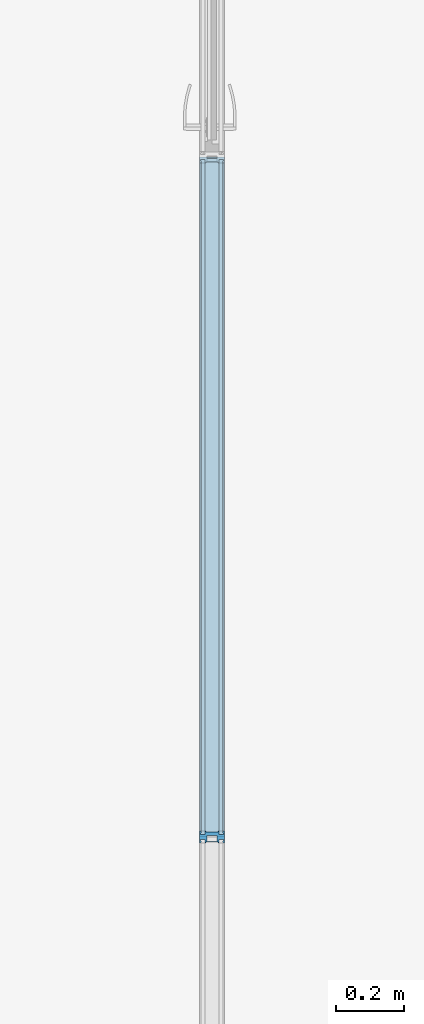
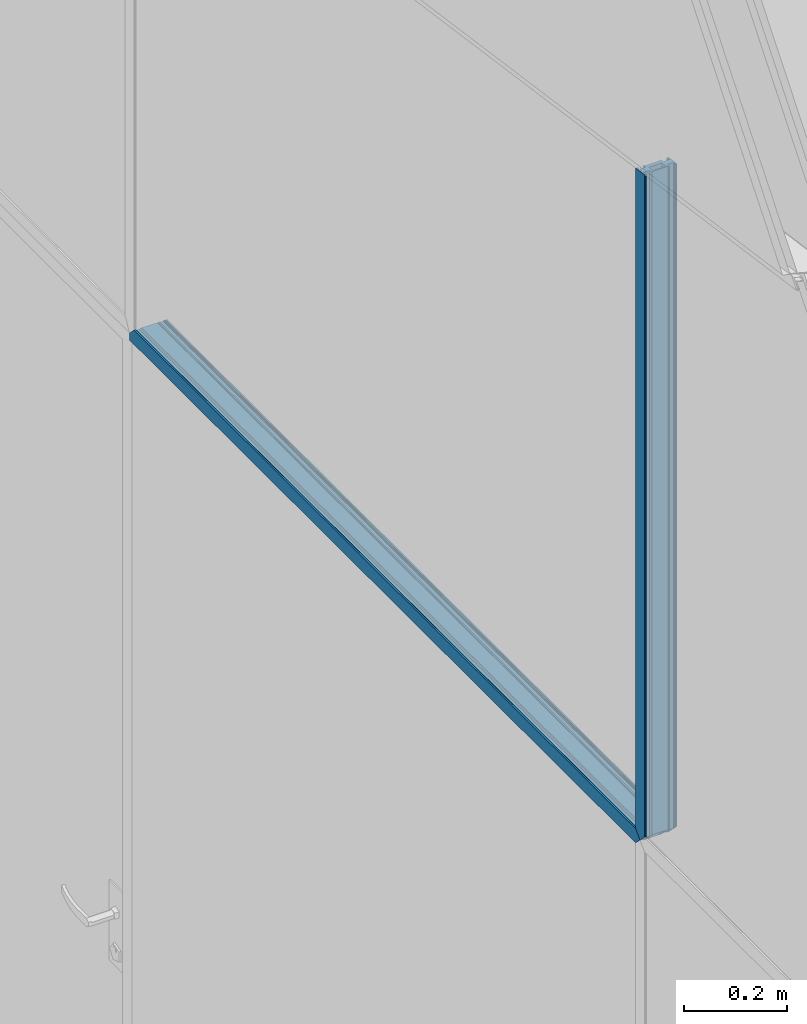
# One storey, part 76 of 246: 2 members, 1 element without a shape of its own.
"""IFC2X3 building model written with IfcOpenShell, lengths in millimetres."""

import ifcopenshell
import ifcopenshell.guid

model = None  # the IFC model being written
_history = None  # IfcOwnerHistory: only IFC2X3 demands one
_inside = {}  # id of a spatial element -> (the spatial element, [elements in it])
_under = {}  # id of a project, library or spatial element -> (it, [spatial elements below it])
_declared = {}  # id of a project -> (the project, [libraries it declares])
_typed = {}  # id of a type object -> (the type object, [elements of that type])
_made_of = {}  # id of a material, layer set ... -> (it, [elements and type objects made of it])


def new_model(schema):
    """Start an empty IFC model of exactly this schema.

    Asked for "IFC4X3", IfcOpenShell would pick the latest addendum, in which some entities
    have other attributes; the version numbers below select the first issue.
    IFC2X3 requires an IfcOwnerHistory on every rooted entity: one is made here for all.
    """
    global model, _history
    if schema == "IFC4X3":
        model = ifcopenshell.file(schema_version=(4, 3, 0, 0))
    else:
        model = ifcopenshell.file(schema=schema)
    _inside.clear()
    _under.clear()
    _declared.clear()
    _typed.clear()
    _made_of.clear()
    _history = None
    if model.schema == "IFC2X3":
        org = make("IfcOrganization", Name="unknown")
        user = make(
            "IfcPersonAndOrganization",
            ThePerson=make("IfcPerson", FamilyName="unknown"),
            TheOrganization=org,
        )
        app = make(
            "IfcApplication",
            ApplicationDeveloper=org,
            Version="unknown",
            ApplicationFullName="unknown",
            ApplicationIdentifier="unknown",
        )
        _history = make(
            "IfcOwnerHistory",
            OwningUser=user,
            OwningApplication=app,
            ChangeAction="ADDED",
            CreationDate=0,
        )
    return model


def make(cls, **values):
    """One entity of the class cls with the attributes given. An attribute that is None is left unset."""
    return model.create_entity(
        cls, **{name: value for name, value in values.items() if value is not None}
    )


def entity(cls, *values):
    """Any entity or typed value of the class cls, its attributes in the order of the schema. None: left unset."""
    e = model.create_entity(cls)
    for i, value in enumerate(values):
        if value is not None:
            e[i] = value
    return e


def rooted(cls, **values):
    """An entity with a GlobalId (a new one), such as an element, a storey or a relation."""
    return make(cls, GlobalId=ifcopenshell.guid.new(), OwnerHistory=_history, **values)


def si_unit(unit_type, name, prefix=None):
    """IfcSIUnit, for example si_unit("LENGTHUNIT", "METRE", prefix="MILLI")."""
    return make("IfcSIUnit", UnitType=unit_type, Prefix=prefix, Name=name)


def converted_unit(unit_type, name, factor, base, dimensions=None, offset=None):
    """IfcConversionBasedUnit, such as the inch: factor (a typed value) times the base unit."""
    return make(
        "IfcConversionBasedUnit"
        if offset is None
        else "IfcConversionBasedUnitWithOffset",
        ConversionOffset=offset,
        Dimensions=None
        if dimensions is None
        else entity("IfcDimensionalExponents", *dimensions),
        UnitType=unit_type,
        Name=name,
        ConversionFactor=make(
            "IfcMeasureWithUnit", ValueComponent=factor, UnitComponent=base
        ),
    )


def derived_unit(unit_type, elements):
    """IfcDerivedUnit: a product of units, each with its exponent."""
    return make(
        "IfcDerivedUnit",
        Elements=[
            make("IfcDerivedUnitElement", Unit=unit, Exponent=power)
            for unit, power in elements
        ],
        UnitType=unit_type,
    )


def money_unit(currency):
    """IfcMonetaryUnit."""
    return make("IfcMonetaryUnit", Currency=currency)


def assignment(units):
    """IfcUnitAssignment: the units of a project."""
    return None if units is None else make("IfcUnitAssignment", Units=units)


def point(xyz):
    """IfcCartesianPoint."""
    return None if xyz is None else make("IfcCartesianPoint", Coordinates=xyz)


def direction(xyz):
    """IfcDirection."""
    return None if xyz is None else make("IfcDirection", DirectionRatios=xyz)


def frame(location, z_axis=None, x_axis=None):
    """IfcAxis2Placement3D, a coordinate frame: its origin and axes. An axis left out is left unset."""
    return make(
        "IfcAxis2Placement3D",
        Location=point(location),
        Axis=direction(z_axis),
        RefDirection=direction(x_axis),
    )


def origin_with_axes():
    """The frame at (0, 0, 0) with the z axis (0, 0, 1) and the x axis (1, 0, 0) written out."""
    return frame((0.0, 0.0, 0.0), z_axis=(0.0, 0.0, 1.0), x_axis=(1.0, 0.0, 0.0))


def place(relative_to, where):
    """IfcLocalPlacement: puts the frame where relative to a parent placement (None: the world)."""
    return make(
        "IfcLocalPlacement", PlacementRelTo=relative_to, RelativePlacement=where
    )


def context(
    kind, dimensions, precision=None, world=None, true_north=None, identifier=None
):
    """IfcGeometricRepresentationContext, for example the 3D "Model" context."""
    return make(
        "IfcGeometricRepresentationContext",
        ContextIdentifier=identifier,
        ContextType=kind,
        CoordinateSpaceDimension=dimensions,
        Precision=precision,
        WorldCoordinateSystem=world,
        TrueNorth=true_north,
    )


def subcontext(parent, identifier, kind, view, scale=None):
    """IfcGeometricRepresentationSubContext, for example "Body" below "Model"."""
    return make(
        "IfcGeometricRepresentationSubContext",
        ContextIdentifier=identifier,
        ContextType=kind,
        ParentContext=parent,
        TargetScale=scale,
        TargetView=view,
    )


def project(units=None, contexts=None):
    """IfcProject with its units and contexts."""
    return rooted(
        "IfcProject",
        Name="project",
        RepresentationContexts=contexts,
        UnitsInContext=assignment(units),
    )


def spatial(cls, under=None, at=None, **own):
    """A site, building, storey or space (cls), placed at a placement, below another one or the project."""
    s = rooted(cls, ObjectPlacement=at, **own)
    if under is not None:
        _under.setdefault(under.id(), (under, []))[1].append(s)
    return s


def faces_of(points, faces, orient=None, outer=None):
    """IfcFace entities. A face is a list of loops; a loop is a list of indices into points, from 0.

    orient and outer hold one flag for each loop. By default every Orientation is true, the
    first loop of a face is its IfcFaceOuterBound and the others are IfcFaceBound.
    """
    made = []
    for i, loops in enumerate(faces):
        bounds = []
        for j, loop in enumerate(loops):
            is_outer = j == 0 if outer is None else outer[i][j]
            bounds.append(
                make(
                    "IfcFaceOuterBound" if is_outer else "IfcFaceBound",
                    Bound=make("IfcPolyLoop", Polygon=[points[k] for k in loop]),
                    Orientation=True if orient is None else orient[i][j],
                )
            )
        made.append(make("IfcFace", Bounds=bounds))
    return made


def faceted_brep(points, faces, orient=None, outer=None, voids=None):
    """IfcFacetedBrep: a solid bounded by flat faces; with voids (closed shells), ...WithVoids."""
    shared = [point(p) for p in points]
    hull = make("IfcClosedShell", CfsFaces=faces_of(shared, faces, orient, outer))
    if voids is None:
        return make("IfcFacetedBrep", Outer=hull)
    return make(
        "IfcFacetedBrepWithVoids",
        Outer=hull,
        Voids=[
            make(cls, CfsFaces=faces_of(shared, fs, o, b)) for cls, fs, o, b in voids
        ],
    )


def shape(context_of_items, identifier, shape_type, items):
    """IfcShapeRepresentation: the items that make up one representation, for example the "Body"."""
    return make(
        "IfcShapeRepresentation",
        ContextOfItems=context_of_items,
        RepresentationIdentifier=identifier,
        RepresentationType=shape_type,
        Items=items,
    )


def material(Name=None, Category=None):
    """IfcMaterial."""
    return make("IfcMaterial", Name=Name, Category=Category)


def material_list(materials):
    """IfcMaterialList."""
    return make("IfcMaterialList", Materials=materials)


def made_of(thing, what):
    """Note that an element or type object is made of a material, layer set ...; save() writes the relation."""
    if what is not None:
        _made_of.setdefault(what.id(), (what, []))[1].append(thing)
    return thing


def type_object(cls, material=None, **own):
    """A type object (cls), such as IfcWallType, which elements share."""
    return made_of(rooted(cls, **own), material)


def element(
    cls,
    number,
    at=None,
    inside=None,
    cuts=None,
    type_object=None,
    material=None,
    context=None,
    identifier="Body",
    shape_type=None,
    held_by="IfcProductDefinitionShape",
    body=None,
    shapes=None,
    **own,
):
    """One element of the class cls, such as IfcWall. Its Tag is "e" and its number.

    at: its placement. inside: the storey or other place that contains it. cuts: it is an
    opening in that element (IfcRelVoidsElement). A single representation is given by context,
    identifier, shape_type and body (its items); several are given by shapes. held_by: the class
    of the entity that holds the representations. save() writes the other relations.
    """
    e = rooted(cls, Tag="e%d" % number, ObjectPlacement=at, **own)
    if body is not None:
        shapes = [shape(context, identifier, shape_type, body)]
    if shapes is not None:
        e.Representation = make(held_by, Representations=shapes)
    if inside is not None:
        _inside.setdefault(inside.id(), (inside, []))[1].append(e)
    if cuts is not None:
        rooted(
            "IfcRelVoidsElement", RelatingBuildingElement=cuts, RelatedOpeningElement=e
        )
    if type_object is not None:
        _typed.setdefault(type_object.id(), (type_object, []))[1].append(e)
    return made_of(e, material)


def aggregate(whole, parts):
    """IfcRelAggregates: a whole, such as a stair, and the parts it consists of."""
    return rooted("IfcRelAggregates", RelatingObject=whole, RelatedObjects=parts)


def save(model, path):
    """Write the relations noted so far, then the file.

    IfcRelAggregates (storeys below a building ...), IfcRelContainedInSpatialStructure (elements
    in a storey), IfcRelDefinesByType, IfcRelAssociatesMaterial and IfcRelDeclares: one each for
    every whole, place, type object, material and project.
    """
    for whole, parts in _under.values():
        aggregate(whole, parts)
    for where, things in _inside.values():
        rooted(
            "IfcRelContainedInSpatialStructure",
            RelatedElements=things,
            RelatingStructure=where,
        )
    for kind, things in _typed.values():
        rooted("IfcRelDefinesByType", RelatedObjects=things, RelatingType=kind)
    for what, things in _made_of.values():
        rooted("IfcRelAssociatesMaterial", RelatedObjects=things, RelatingMaterial=what)
    for by, libraries in _declared.values():
        rooted("IfcRelDeclares", RelatingContext=by, RelatedDefinitions=libraries)
    model.write(path)


model = new_model("IFC2X3")

# Units and contexts
model_context = context("Model", 3, precision=0.01, world=origin_with_axes(), true_north=direction((0.0, 1.0)))
body_context = subcontext(model_context, "Body", "Model", "MODEL_VIEW")
ifc_project = project(units=[si_unit("LENGTHUNIT", "METRE", prefix="MILLI"), si_unit("AREAUNIT", "SQUARE_METRE"), si_unit("VOLUMEUNIT", "CUBIC_METRE"), converted_unit("PLANEANGLEUNIT", "DEGREE", entity("IfcPlaneAngleMeasure", 0.0174532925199), si_unit("PLANEANGLEUNIT", "RADIAN"), dimensions=[0, 0, 0, 0, 0, 0, 0]), si_unit("SOLIDANGLEUNIT", "STERADIAN"), money_unit("EUR"), converted_unit("TIMEUNIT", "Year", entity("IfcTimeMeasure", 31556926.0), si_unit("TIMEUNIT", "SECOND"), dimensions=[0, 0, 1, 0, 0, 0, 0]), si_unit("MASSUNIT", "GRAM", prefix="KILO"), si_unit("THERMODYNAMICTEMPERATUREUNIT", "DEGREE_CELSIUS"), si_unit("LUMINOUSINTENSITYUNIT", "LUMEN"), si_unit("ENERGYUNIT", "JOULE", prefix="MEGA"), derived_unit("THERMALCONDUCTANCEUNIT", [(si_unit("POWERUNIT", "WATT"), 1), (si_unit("LENGTHUNIT", "METRE"), -1), (si_unit("THERMODYNAMICTEMPERATUREUNIT", "KELVIN"), -1)]), derived_unit("SPECIFICHEATCAPACITYUNIT", [(si_unit("ENERGYUNIT", "JOULE"), 1), (si_unit("MASSUNIT", "GRAM", prefix="KILO"), -1), (si_unit("THERMODYNAMICTEMPERATUREUNIT", "KELVIN"), -1)]), derived_unit("MASSDENSITYUNIT", [(si_unit("MASSUNIT", "GRAM", prefix="KILO"), 1), (si_unit("VOLUMEUNIT", "CUBIC_METRE"), -1)])], contexts=[model_context])

# Site, building, storey
site_placement = place(None, origin_with_axes())
site = spatial("IfcSite", under=ifc_project, at=site_placement, Name="L.Koidula tn 11b", CompositionType="ELEMENT")
building_placement = place(site_placement, origin_with_axes())
building = spatial("IfcBuilding", under=site, at=building_placement, Name="Rakvere Riigigümnaasium", CompositionType="ELEMENT")
storey_placement = place(building_placement, origin_with_axes())
storey = spatial("IfcBuildingStorey", under=building, at=storey_placement, Name="1.korrus 0,00", CompositionType="ELEMENT", Elevation=0.0)

# Curtain wall, members
curtain_wall_type = type_object("IfcCurtainWallType", Name="Curtain Wall Type", PredefinedType="NOTDEFINED")
curtain_wall_placement = place(storey_placement, frame((32835.0202258, 67589.2016838, 0.0), z_axis=(0.0, 0.0, 1.0), x_axis=(1.0, 0.0, 0.0)))
curtain_wall = element("IfcCurtainWall", 1, at=curtain_wall_placement, inside=storey, type_object=curtain_wall_type, Name="SKLF-02")
ifc_material_1 = material(Name="Klaasvill")
ifc_material_2 = material(Name="Teras RAL7012")
ifc_material_list = material_list([ifc_material_1, ifc_material_2])
member_type = type_object("IfcMemberType", Name="Siseklaasfassaad-Vaheprofiil-Doubleline30 34 x 42", PredefinedType="MULLION")
member_1_placement = place(curtain_wall_placement, frame((0.0, 2981.25, 2400.0), z_axis=(0.0, -1.0, 0.0), x_axis=(0.0, 0.0, 1.0)))
member_1 = element("IfcMember", 2, at=member_1_placement, type_object=member_type, material=ifc_material_list, Name="Frame-Siseklaasf-112", ObjectType="MULLION", context=body_context, shape_type="Brep", body=[
    faceted_brep([(15.4955493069, 27.0307503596, 15.4955493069), (15.7655837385, 28.0385325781, 15.7655837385), (15.7655837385, 28.0385325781, 1971.73441626), (15.4955493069, 27.0307503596, 1972.00445069), (15.5126239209, 29.0161444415, 15.5126239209), (14.75780152, 26.2930025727, 14.75780152), (13.7500193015, 26.0229681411, 13.7500193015), (12.742237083, 26.2930025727, 12.742237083), (12.004489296, 27.0307503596, 12.004489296), (11.987414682, 29.0161444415, 11.987414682), (15.5126239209, 29.0161444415, 1971.98737608), (12.742237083, 26.2930025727, 1974.75776292), (13.7500193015, 26.0229681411, 1973.7499807), (14.75780152, 26.2930025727, 1972.74219848), (11.987414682, 29.0161444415, 1975.51258532), (12.004489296, 27.0307503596, 1975.4955107)], [[[0, 1, 2, 3]], [[4, 1, 0, 5, 6, 7, 8, 9]], [[1, 4, 10, 2]], [[11, 12, 13, 3, 2, 10, 14, 15]], [[5, 0, 3, 13]], [[6, 5, 13, 12]], [[7, 6, 12, 11]], [[8, 7, 11, 15]], [[9, 8, 15, 14]], [[4, 9, 14, 10]]]),
    faceted_brep([(11.987414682, -39.0161444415, 11.987414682), (15.5126239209, -39.0161444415, 15.5126239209), (15.5126239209, -39.0161444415, 1971.98737608), (11.987414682, -39.0161444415, 1975.51258532), (15.4955493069, -37.0307503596, 15.4955493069), (11.7344548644, -38.0385325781, 11.7344548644), (12.004489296, -37.0307503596, 12.004489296), (12.742237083, -36.2930025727, 12.742237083), (13.7500193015, -36.0229681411, 13.7500193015), (14.75780152, -36.2930025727, 14.75780152), (15.4955493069, -37.0307503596, 1972.00445069), (12.742237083, -36.2930025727, 1974.75776292), (12.004489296, -37.0307503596, 1975.4955107), (11.7344548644, -38.0385325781, 1975.76554514), (14.75780152, -36.2930025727, 1972.74219848), (13.7500193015, -36.0229681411, 1973.7499807)], [[[0, 1, 2, 3]], [[4, 1, 0, 5, 6, 7, 8, 9]], [[1, 4, 10, 2]], [[11, 12, 13, 3, 2, 10, 14, 15]], [[5, 0, 3, 13]], [[6, 5, 13, 12]], [[7, 6, 12, 11]], [[8, 7, 11, 15]], [[9, 8, 15, 14]], [[4, 9, 14, 10]]]),
    faceted_brep([(-11.987414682, 29.0161444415, 1975.51258532), (-11.7344548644, 28.0385325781, 1975.76554514), (-11.7344548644, 28.0385325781, 0.0), (-11.987414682, 29.0161444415, 0.0), (-12.004489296, 27.0307503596, 1975.4955107), (-15.7655837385, 28.0385325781, 1971.73441626), (-15.4955493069, 27.0307503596, 1972.00445069), (-14.75780152, 26.2930025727, 1972.74219848), (-13.7500193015, 26.0229681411, 1973.7499807), (-12.742237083, 26.2930025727, 1974.75776292), (-12.004489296, 27.0307503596, 0.0), (-14.75780152, 26.2930025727, 0.0), (-15.4955493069, 27.0307503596, 0.0), (-15.7655837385, 28.0385325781, 0.0), (-12.742237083, 26.2930025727, 0.0), (-13.7500193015, 26.0229681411, 0.0)], [[[0, 1, 2, 3]], [[4, 1, 0, 5, 6, 7, 8, 9]], [[1, 4, 10, 2]], [[11, 12, 13, 3, 2, 10, 14, 15]], [[5, 0, 3, 13]], [[6, 5, 13, 12]], [[7, 6, 12, 11]], [[8, 7, 11, 15]], [[9, 8, 15, 14]], [[4, 9, 14, 10]]]),
    faceted_brep([(-12.004489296, -37.0307503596, 1975.4955107), (-11.7344548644, -38.0385325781, 1975.76554514), (-11.7344548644, -38.0385325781, 0.0), (-12.004489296, -37.0307503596, 0.0), (-11.987414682, -39.0161444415, 1975.51258532), (-12.742237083, -36.2930025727, 1974.75776292), (-13.7500193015, -36.0229681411, 1973.7499807), (-14.75780152, -36.2930025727, 1972.74219848), (-15.4955493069, -37.0307503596, 1972.00445069), (-15.5126239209, -39.0161444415, 1971.98737608), (-11.987414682, -39.0161444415, 0.0), (-15.5126239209, -39.0161444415, 0.0), (-15.4955493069, -37.0307503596, 0.0), (-14.75780152, -36.2930025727, 0.0), (-13.7500193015, -36.0229681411, 0.0), (-12.742237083, -36.2930025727, 0.0)], [[[0, 1, 2, 3]], [[4, 1, 0, 5, 6, 7, 8, 9]], [[1, 4, 10, 2]], [[2, 10, 11, 12, 13, 14, 15, 3]], [[5, 0, 3, 15]], [[6, 5, 15, 14]], [[7, 6, 14, 13]], [[8, 7, 13, 12]], [[9, 8, 12, 11]], [[4, 9, 11, 10]]]),
    faceted_brep([(14.8000003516, -22.0000000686, 14.8000003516), (14.8000003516, 12.0000001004, 14.8000003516), (14.8000003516, 12.0000001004, 1972.69999965), (14.8000003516, -22.0000000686, 1972.69999965), (0.0, 12.0000001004, 0.0), (0.0, -22.0000000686, 0.0), (0.0, -20.0000001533, 0.0), (4.0000003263, -20.0000001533, 4.0000003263), (4.0000003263, 10.0000001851, 4.0000003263), (0.0, 10.0000001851, 0.0), (0.0, 12.0000001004, 1987.5), (4.0000003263, -20.0000001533, 1983.49999967), (0.0, -20.0000001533, 1987.5), (0.0, -22.0000000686, 1987.5), (0.0, 10.0000001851, 1987.5), (4.0000003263, 10.0000001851, 1983.49999967), (-14.8000001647, -22.0000000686, 0.0), (-14.8000001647, 12.0000001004, 0.0), (-12.8000002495, 10.0000001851, 0.0), (-12.8000002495, -20.0000001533, 0.0), (-12.8000002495, -20.0000001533, 1974.69999975), (-12.8000002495, 10.0000001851, 1974.69999975), (-14.8000001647, 12.0000001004, 1972.69999984), (-14.8000001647, -22.0000000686, 1972.69999984)], [[[0, 1, 2, 3]], [[4, 1, 0, 5, 6, 7, 8, 9]], [[1, 4, 10, 2]], [[11, 12, 13, 3, 2, 10, 14, 15]], [[5, 0, 3, 13]], [[6, 5, 16, 17, 4, 9, 18, 19]], [[7, 6, 19, 20, 12, 11]], [[8, 7, 11, 15]], [[9, 8, 15, 14, 21, 18]], [[10, 4, 17, 22]], [[20, 21, 14, 10, 22, 23, 13, 12]], [[23, 16, 5, 13]], [[22, 17, 16, 23]], [[20, 19, 18, 21]]]),
    faceted_brep([(17.0000193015, 29.0161446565, 17.0000193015), (17.0000193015, 32.0000000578, 17.0000193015), (17.0000193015, 32.0000000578, 1970.4999807), (17.0000193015, 29.0161446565, 1970.4999807), (0.0, 32.0000000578, 0.0), (15.5126239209, 29.0161444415, 15.5126239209), (11.987414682, 29.0161444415, 11.987414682), (7.50000002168, 29.0161446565, 7.50000002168), (7.50000002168, 15.0000000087, 7.50000002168), (17.0000193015, 15.0000000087, 17.0000193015), (17.0000193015, 12.0, 17.0000193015), (14.8000003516, 12.0000001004, 14.8000003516), (0.0, 12.0, 0.0), (0.0, 32.0000000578, 1987.5), (7.50000002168, 29.0161446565, 1979.99999998), (11.987414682, 29.0161444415, 1975.51258532), (15.5126239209, 29.0161444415, 1971.98737608), (0.0, 12.0, 1987.5), (14.8000003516, 12.0000001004, 1972.69999965), (17.0000193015, 12.0, 1970.4999807), (17.0000193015, 15.0000000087, 1970.4999807), (7.50000002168, 15.0000000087, 1979.99999998)], [[[0, 1, 2, 3]], [[4, 1, 0, 5, 6, 7, 8, 9, 10, 11, 12]], [[1, 4, 13, 2]], [[14, 15, 16, 3, 2, 13, 17, 18, 19, 20, 21]], [[5, 0, 3, 16]], [[6, 5, 16, 15]], [[7, 6, 15, 14]], [[8, 7, 14, 21]], [[9, 8, 21, 20]], [[10, 9, 20, 19]], [[11, 10, 19, 18]], [[12, 11, 18, 17]], [[4, 12, 17, 13]]]),
    faceted_brep([(17.0000193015, -24.9999999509, 17.0000193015), (17.0000193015, -21.9999999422, 17.0000193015), (17.0000193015, -21.9999999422, 1970.4999807), (17.0000193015, -24.9999999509, 1970.4999807), (14.8000003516, -22.0000000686, 14.8000003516), (7.50000002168, -24.9999999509, 7.50000002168), (7.50000002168, -39.0161445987, 7.50000002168), (11.987414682, -39.0161444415, 11.987414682), (15.5126239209, -39.0161444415, 15.5126239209), (17.0000193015, -39.0161445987, 17.0000193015), (17.0000193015, -42.0, 17.0000193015), (0.0, -42.0, 0.0), (0.0, -21.9999999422, 0.0), (14.8000003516, -22.0000000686, 1972.69999965), (11.987414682, -39.0161444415, 1975.51258532), (7.50000002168, -39.0161445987, 1979.99999998), (7.50000002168, -24.9999999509, 1979.99999998), (0.0, -21.9999999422, 1987.5), (0.0, -42.0, 1987.5), (17.0000193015, -42.0, 1970.4999807), (17.0000193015, -39.0161445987, 1970.4999807), (15.5126239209, -39.0161444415, 1971.98737608)], [[[0, 1, 2, 3]], [[4, 1, 0, 5, 6, 7, 8, 9, 10, 11, 12]], [[1, 4, 13, 2]], [[14, 15, 16, 3, 2, 13, 17, 18, 19, 20, 21]], [[5, 0, 3, 16]], [[6, 5, 16, 15]], [[7, 6, 15, 14]], [[8, 7, 14, 21]], [[9, 8, 21, 20]], [[10, 9, 20, 19]], [[11, 10, 19, 18]], [[12, 11, 18, 17]], [[4, 12, 17, 13]]]),
    faceted_brep([(-17.0000193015, 32.0, 1970.4999807), (0.0, 32.0, 1987.5), (0.0, 32.0, 0.0), (-17.0000193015, 32.0, 0.0), (-17.0000193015, 29.0161444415, 1970.4999807), (-15.5126239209, 29.0161444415, 1971.98737608), (-11.987414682, 29.0161444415, 1975.51258532), (-7.49999999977, 29.0161444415, 1980.0), (-7.49999999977, 15.0, 1980.0), (-17.0000193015, 15.0, 1970.4999807), (-17.0000193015, 12.0, 1970.4999807), (-14.8000001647, 12.0000001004, 1972.69999984), (0.0, 12.0, 1987.5), (0.0, 12.0, 0.0), (-17.0000193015, 29.0161444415, 0.0), (-14.8000001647, 12.0000001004, 0.0), (-17.0000193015, 12.0, 0.0), (-17.0000193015, 15.0, 0.0), (-7.49999999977, 15.0, 0.0), (-7.49999999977, 29.0161444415, 0.0), (-11.987414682, 29.0161444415, 0.0), (-15.5126239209, 29.0161444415, 0.0)], [[[0, 1, 2, 3]], [[1, 0, 4, 5, 6, 7, 8, 9, 10, 11, 12]], [[1, 12, 13, 2]], [[14, 3, 2, 13, 15, 16, 17, 18, 19, 20, 21]], [[4, 0, 3, 14]], [[5, 4, 14, 21]], [[6, 5, 21, 20]], [[7, 6, 20, 19]], [[8, 7, 19, 18]], [[9, 8, 18, 17]], [[10, 9, 17, 16]], [[11, 10, 16, 15]], [[12, 11, 15, 13]]]),
    faceted_brep([(-14.8000001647, -22.0000000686, 1972.69999984), (0.0, -22.0, 1987.5), (0.0, -22.0, 0.0), (-14.8000001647, -22.0000000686, 0.0), (-17.0000193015, -22.0, 1970.4999807), (-17.0000193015, -25.0, 1970.4999807), (-7.49999999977, -25.0, 1980.0), (-7.49999999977, -39.0161444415, 1980.0), (-11.987414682, -39.0161444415, 1975.51258532), (-15.5126239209, -39.0161444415, 1971.98737608), (-17.0000193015, -39.0161444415, 1970.4999807), (-17.0000193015, -42.0, 1970.4999807), (0.0, -42.0, 1987.5), (0.0, -42.0, 0.0), (-17.0000193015, -25.0, 0.0), (-17.0000193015, -22.0, 0.0), (-17.0000193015, -42.0, 0.0), (-17.0000193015, -39.0161444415, 0.0), (-15.5126239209, -39.0161444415, 0.0), (-11.987414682, -39.0161444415, 0.0), (-7.49999999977, -39.0161444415, 0.0), (-7.49999999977, -25.0, 0.0)], [[[0, 1, 2, 3]], [[1, 0, 4, 5, 6, 7, 8, 9, 10, 11, 12]], [[1, 12, 13, 2]], [[14, 15, 3, 2, 13, 16, 17, 18, 19, 20, 21]], [[4, 0, 3, 15]], [[5, 4, 15, 14]], [[6, 5, 14, 21]], [[7, 6, 21, 20]], [[8, 7, 20, 19]], [[9, 8, 19, 18]], [[10, 9, 18, 17]], [[11, 10, 17, 16]], [[12, 11, 16, 13]]]),
])
member_2_placement = place(curtain_wall_placement, frame((0.0, 993.75, 2400.0), z_axis=(0.0, 0.0, 1.0), x_axis=(0.0, 1.0, 0.0)))
member_2 = element("IfcMember", 3, at=member_2_placement, type_object=member_type, material=ifc_material_list, Name="Frame-Siseklaasf-227", ObjectType="MULLION", context=body_context, shape_type="Brep", body=[
    faceted_brep([(15.4955493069, 27.0307503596, 15.4955493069), (15.7655837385, 28.0385325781, 15.7655837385), (15.7655837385, 28.0385325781, 1587.03984087), (15.4955493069, 27.0307503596, 1587.07828149), (15.5126239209, 29.0161444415, 15.5126239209), (14.75780152, 26.2930025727, 14.75780152), (13.7500193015, 26.0229681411, 13.7500193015), (12.742237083, 26.2930025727, 12.742237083), (12.004489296, 27.0307503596, 12.004489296), (11.987414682, 29.0161444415, 11.987414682), (15.5126239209, 29.0161444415, 1587.07585084), (11.987414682, 29.0161444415, 1587.57768021), (12.004489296, 27.0307503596, 1587.57524956), (12.742237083, 26.2930025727, 1587.47022785), (13.7500193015, 26.0229681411, 1587.32676553), (14.75780152, 26.2930025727, 1587.1833032)], [[[0, 1, 2, 3]], [[4, 1, 0, 5, 6, 7, 8, 9]], [[1, 4, 10, 2]], [[3, 2, 10, 11, 12, 13, 14, 15]], [[5, 0, 3, 15]], [[6, 5, 15, 14]], [[7, 6, 14, 13]], [[8, 7, 13, 12]], [[9, 8, 12, 11]], [[4, 9, 11, 10]]]),
    faceted_brep([(11.987414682, -39.0161444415, 11.987414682), (15.5126239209, -39.0161444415, 15.5126239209), (15.5126239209, -39.0161444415, 1587.07585084), (11.987414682, -39.0161444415, 1587.57768021), (15.4955493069, -37.0307503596, 15.4955493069), (11.7344548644, -38.0385325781, 11.7344548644), (12.004489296, -37.0307503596, 12.004489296), (12.742237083, -36.2930025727, 12.742237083), (13.7500193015, -36.0229681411, 13.7500193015), (14.75780152, -36.2930025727, 14.75780152), (15.4955493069, -37.0307503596, 1587.07828149), (12.004489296, -37.0307503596, 1587.57524956), (11.7344548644, -38.0385325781, 1587.61369018), (14.75780152, -36.2930025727, 1587.1833032), (13.7500193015, -36.0229681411, 1587.32676553), (12.742237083, -36.2930025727, 1587.47022785)], [[[0, 1, 2, 3]], [[4, 1, 0, 5, 6, 7, 8, 9]], [[1, 4, 10, 2]], [[11, 12, 3, 2, 10, 13, 14, 15]], [[5, 0, 3, 12]], [[6, 5, 12, 11]], [[7, 6, 11, 15]], [[8, 7, 15, 14]], [[9, 8, 14, 13]], [[4, 9, 13, 10]]]),
    faceted_brep([(-12.004489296, 27.0307503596, 12.004489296), (-11.7344548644, 28.0385325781, 11.7344548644), (-11.7344548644, 28.0385325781, 1590.95459489), (-12.004489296, 27.0307503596, 1590.9930355), (-11.987414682, 29.0161444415, 11.987414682), (-12.742237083, 26.2930025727, 12.742237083), (-13.7500193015, 26.0229681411, 13.7500193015), (-14.75780152, 26.2930025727, 14.75780152), (-15.4955493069, 27.0307503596, 15.4955493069), (-15.7655837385, 28.0385325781, 15.7655837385), (-11.987414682, 29.0161444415, 1590.99060486), (-12.742237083, 26.2930025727, 1591.09805721), (-15.7655837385, 28.0385325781, 1591.52844419), (-15.4955493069, 27.0307503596, 1591.49000358), (-14.75780152, 26.2930025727, 1591.38498187), (-13.7500193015, 26.0229681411, 1591.24151954)], [[[0, 1, 2, 3]], [[4, 1, 0, 5, 6, 7, 8, 9]], [[1, 4, 10, 2]], [[11, 3, 2, 10, 12, 13, 14, 15]], [[5, 0, 3, 11]], [[6, 5, 11, 15]], [[7, 6, 15, 14]], [[8, 7, 14, 13]], [[9, 8, 13, 12]], [[4, 9, 12, 10]]]),
    faceted_brep([(-11.987414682, -39.0161444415, 11.987414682), (-11.7344548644, -38.0385325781, 11.7344548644), (-11.7344548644, -38.0385325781, 1590.95459489), (-11.987414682, -39.0161444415, 1590.99060486), (-12.004489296, -37.0307503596, 12.004489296), (-15.5126239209, -39.0161444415, 15.5126239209), (-15.4955493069, -37.0307503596, 15.4955493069), (-14.75780152, -36.2930025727, 14.75780152), (-13.7500193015, -36.0229681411, 13.7500193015), (-12.742237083, -36.2930025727, 12.742237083), (-12.004489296, -37.0307503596, 1590.9930355), (-12.742237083, -36.2930025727, 1591.09805721), (-13.7500193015, -36.0229681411, 1591.24151954), (-14.75780152, -36.2930025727, 1591.38498187), (-15.4955493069, -37.0307503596, 1591.49000358), (-15.5126239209, -39.0161444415, 1591.49243422)], [[[0, 1, 2, 3]], [[4, 1, 0, 5, 6, 7, 8, 9]], [[1, 4, 10, 2]], [[11, 12, 13, 14, 15, 3, 2, 10]], [[5, 0, 3, 15]], [[6, 5, 15, 14]], [[7, 6, 14, 13]], [[8, 7, 13, 12]], [[9, 8, 12, 11]], [[4, 9, 11, 10]]]),
    faceted_brep([(-12.8000002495, 10.0000001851, 12.8000002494), (0.0, 10.0000001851, 0.0), (4.0000003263, 10.0000001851, 4.0000003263), (4.0000003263, 10.0000001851, 1588.71472452), (-12.8000002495, 10.0000001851, 1591.10628006), (-14.8000001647, 12.0000001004, 14.8000001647), (0.0, 12.0000001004, 0.0), (-12.8000002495, -20.0000001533, 12.8000002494), (0.0, -20.0000001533, 0.0), (0.0, -22.0000000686, 0.0), (-14.8000001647, -22.0000000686, 14.8000001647), (14.8000003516, 12.0000001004, 14.8000003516), (14.8000003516, -22.0000000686, 14.8000003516), (4.0000003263, -20.0000001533, 4.0000003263), (4.0000003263, -20.0000001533, 1588.71472452), (14.8000003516, 12.0000001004, 1587.17729601), (-3.08905781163e-07, 12.0000001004, 1589.28414258), (-14.8000001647, 12.0000001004, 1591.39098903), (-14.8000001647, -22.0000000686, 1591.39098903), (-3.08905781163e-07, -22.0000000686, 1589.28414258), (14.8000003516, -22.0000000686, 1587.17729601), (-12.8000002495, -20.0000001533, 1591.10628006)], [[[0, 1, 2, 3, 4]], [[5, 6, 1, 0, 7, 8, 9, 10]], [[6, 11, 12, 9, 8, 13, 2, 1]], [[2, 13, 14, 3]], [[15, 16, 17, 18, 19, 20], [3, 14, 21, 4]], [[7, 0, 4, 21]], [[6, 5, 17, 16]], [[8, 7, 21, 14, 13]], [[10, 9, 19, 18]], [[5, 10, 18, 17]], [[11, 6, 16, 15]], [[12, 11, 15, 20]], [[9, 12, 20, 19]]]),
    faceted_brep([(17.0000193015, 29.0161446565, 17.0000193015), (17.0000193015, 32.0000000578, 17.0000193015), (17.0000193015, 32.0000000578, 1586.86411343), (17.0000193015, 29.0161446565, 1586.86411343), (0.0, 32.0000000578, 0.0), (15.5126239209, 29.0161444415, 15.5126239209), (11.987414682, 29.0161444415, 11.987414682), (7.50000002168, 29.0161446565, 7.50000002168), (7.50000002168, 15.0000000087, 7.50000002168), (17.0000193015, 15.0000000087, 17.0000193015), (17.0000193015, 12.0, 17.0000193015), (14.8000003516, 12.0000001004, 14.8000003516), (0.0, 12.0, 0.0), (0.0, 32.0000000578, 1589.28414253), (15.5126239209, 29.0161444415, 1587.07585084), (0.0, 12.0, 1589.28414253), (14.8000003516, 12.0000001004, 1587.17729601), (17.0000193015, 12.0, 1586.86411343), (17.0000193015, 15.0000000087, 1586.86411343), (7.50000002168, 15.0000000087, 1588.21648384), (7.50000002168, 29.0161446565, 1588.21648384), (11.987414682, 29.0161444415, 1587.57768021)], [[[0, 1, 2, 3]], [[4, 1, 0, 5, 6, 7, 8, 9, 10, 11, 12]], [[1, 4, 13, 2]], [[14, 3, 2, 13, 15, 16, 17, 18, 19, 20, 21]], [[5, 0, 3, 14]], [[6, 5, 14, 21]], [[7, 6, 21, 20]], [[8, 7, 20, 19]], [[9, 8, 19, 18]], [[10, 9, 18, 17]], [[11, 10, 17, 16]], [[12, 11, 16, 15]], [[4, 12, 15, 13]]]),
    faceted_brep([(17.0000193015, -24.9999999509, 17.0000193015), (17.0000193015, -21.9999999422, 17.0000193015), (17.0000193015, -21.9999999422, 1586.86411343), (17.0000193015, -24.9999999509, 1586.86411343), (14.8000003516, -22.0000000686, 14.8000003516), (7.50000002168, -24.9999999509, 7.50000002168), (7.50000002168, -39.0161445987, 7.50000002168), (11.987414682, -39.0161444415, 11.987414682), (15.5126239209, -39.0161444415, 15.5126239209), (17.0000193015, -39.0161445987, 17.0000193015), (17.0000193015, -42.0, 17.0000193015), (0.0, -42.0, 0.0), (0.0, -21.9999999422, 0.0), (14.8000003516, -22.0000000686, 1587.17729601), (0.0, -21.9999999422, 1589.28414253), (0.0, -42.0, 1589.28414253), (17.0000193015, -42.0, 1586.86411343), (17.0000193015, -39.0161445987, 1586.86411343), (15.5126239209, -39.0161444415, 1587.07585084), (11.987414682, -39.0161444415, 1587.57768021), (7.50000002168, -39.0161445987, 1588.21648384), (7.50000002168, -24.9999999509, 1588.21648384)], [[[0, 1, 2, 3]], [[4, 1, 0, 5, 6, 7, 8, 9, 10, 11, 12]], [[1, 4, 13, 2]], [[3, 2, 13, 14, 15, 16, 17, 18, 19, 20, 21]], [[5, 0, 3, 21]], [[6, 5, 21, 20]], [[7, 6, 20, 19]], [[8, 7, 19, 18]], [[9, 8, 18, 17]], [[10, 9, 17, 16]], [[11, 10, 16, 15]], [[12, 11, 15, 14]], [[4, 12, 14, 13]]]),
    faceted_brep([(0.0, 12.0, 0.0), (0.0, 32.0, 0.0), (0.0, 32.0, 1589.28414253), (0.0, 12.0, 1589.28414253), (-17.0000193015, 32.0, 17.0000193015), (-14.8000001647, 12.0000001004, 14.8000001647), (-17.0000193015, 12.0, 17.0000193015), (-17.0000193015, 15.0, 17.0000193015), (-7.49999999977, 15.0, 7.49999999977), (-7.49999999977, 29.0161444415, 7.49999999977), (-11.987414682, 29.0161444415, 11.987414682), (-15.5126239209, 29.0161444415, 15.5126239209), (-17.0000193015, 29.0161444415, 17.0000193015), (-17.0000193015, 32.0, 1591.70417164), (-17.0000193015, 15.0, 1591.70417164), (-17.0000193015, 12.0, 1591.70417164), (-14.8000001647, 12.0000001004, 1591.39098903), (-17.0000193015, 29.0161444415, 1591.70417164), (-15.5126239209, 29.0161444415, 1591.49243422), (-11.987414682, 29.0161444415, 1590.99060486), (-7.49999999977, 29.0161444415, 1590.35180122), (-7.49999999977, 15.0, 1590.35180122)], [[[0, 1, 2, 3]], [[4, 1, 0, 5, 6, 7, 8, 9, 10, 11, 12]], [[1, 4, 13, 2]], [[14, 15, 16, 3, 2, 13, 17, 18, 19, 20, 21]], [[5, 0, 3, 16]], [[6, 5, 16, 15]], [[7, 6, 15, 14]], [[8, 7, 14, 21]], [[9, 8, 21, 20]], [[10, 9, 20, 19]], [[11, 10, 19, 18]], [[12, 11, 18, 17]], [[4, 12, 17, 13]]]),
    faceted_brep([(0.0, -42.0, 0.0), (0.0, -22.0, 0.0), (0.0, -22.0, 1589.28414253), (0.0, -42.0, 1589.28414253), (-14.8000001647, -22.0000000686, 14.8000001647), (-17.0000193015, -42.0, 17.0000193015), (-17.0000193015, -39.0161444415, 17.0000193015), (-15.5126239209, -39.0161444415, 15.5126239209), (-11.987414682, -39.0161444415, 11.987414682), (-7.49999999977, -39.0161444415, 7.49999999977), (-7.49999999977, -25.0, 7.49999999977), (-17.0000193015, -25.0, 17.0000193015), (-17.0000193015, -22.0, 17.0000193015), (-14.8000001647, -22.0000000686, 1591.39098903), (-17.0000193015, -39.0161444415, 1591.70417164), (-17.0000193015, -42.0, 1591.70417164), (-17.0000193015, -22.0, 1591.70417164), (-17.0000193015, -25.0, 1591.70417164), (-7.49999999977, -25.0, 1590.35180122), (-7.49999999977, -39.0161444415, 1590.35180122), (-11.987414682, -39.0161444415, 1590.99060486), (-15.5126239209, -39.0161444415, 1591.49243422)], [[[0, 1, 2, 3]], [[4, 1, 0, 5, 6, 7, 8, 9, 10, 11, 12]], [[1, 4, 13, 2]], [[14, 15, 3, 2, 13, 16, 17, 18, 19, 20, 21]], [[5, 0, 3, 15]], [[6, 5, 15, 14]], [[7, 6, 14, 21]], [[8, 7, 21, 20]], [[9, 8, 20, 19]], [[10, 9, 19, 18]], [[11, 10, 18, 17]], [[12, 11, 17, 16]], [[4, 12, 16, 13]]]),
])
aggregate(curtain_wall, [member_1, member_2])

save(model, "model.ifc")
